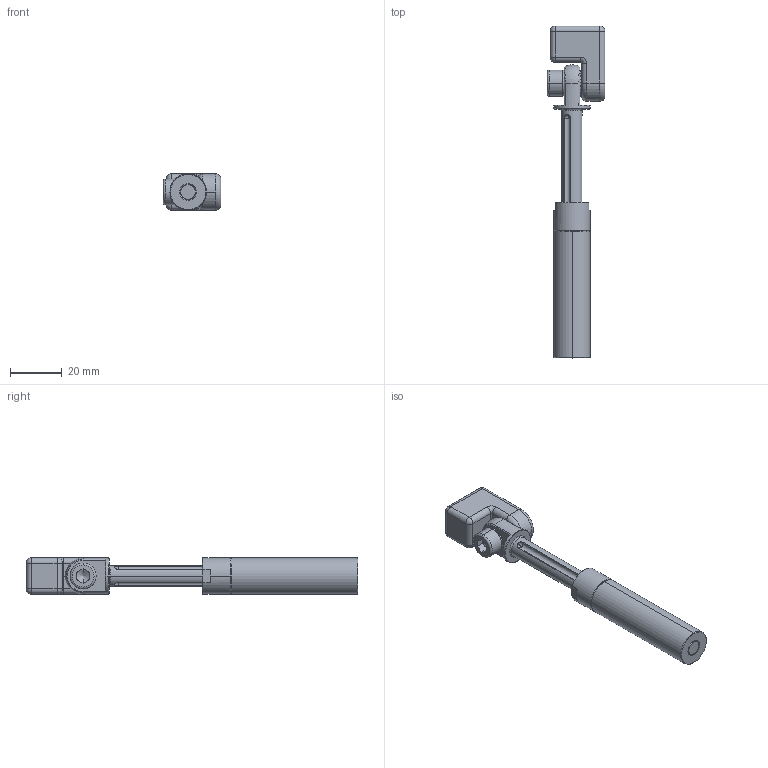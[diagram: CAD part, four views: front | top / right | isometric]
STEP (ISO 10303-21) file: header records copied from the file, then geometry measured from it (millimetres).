
FILE_DESCRIPTION (( 'STEP AP214' ), '1' );
FILE_NAME ('VFE1436-G18.STEP', '2023-03-09T02:16:07', ( 'Windows User' ), ( 'P R C' ), 'SwSTEP 2.0', 'SolidWorks 2019', '' );
FILE_SCHEMA (( 'AUTOMOTIVE_DESIGN' ));
Length unit declared in the file: millimetre
Products named in the file (7): PTS-M6; VFN1436-G18掛极; hexagon socket head cap screws gb_GB_FASTENER_SCREWS_HSHCS M6X16-C; VFE-G18籵蚚柲蜇芛; VFE1436-G18籵蚚粣裝; 2.Y01808; VFE1436-G18
Assembly tree (7 placements, depth 2):
  VFE1436-G18
    VFN1436-G18掛极
    VFE1436-G18籵蚚粣裝
    2.Y01808
    VFE-G18籵蚚柲蜇芛
    hexagon socket head cap screws gb_GB_FASTENER_SCREWS_HSHCS M6X16-C
    PTS-M6  x2
Bounding box: 22.3 x 128 x 14 mm (x, y, z)
Volume: 15704.1 mm3; surface area: 12104.9 mm2
Topology: 7 solids, 7 shells, 629 faces, 1719 edges, 1095 vertices
Faces by surface type: plane 434, cylinder 85, cone 76, sphere 20, torus 8, bspline 6
Entity records: 16303 total; most frequent: CARTESIAN_POINT 5136, DIRECTION 2367, ORIENTED_EDGE 2234, EDGE_CURVE 1117, AXIS2_PLACEMENT_3D 880, VERTEX_POINT 701, VECTOR 607, LINE 607
